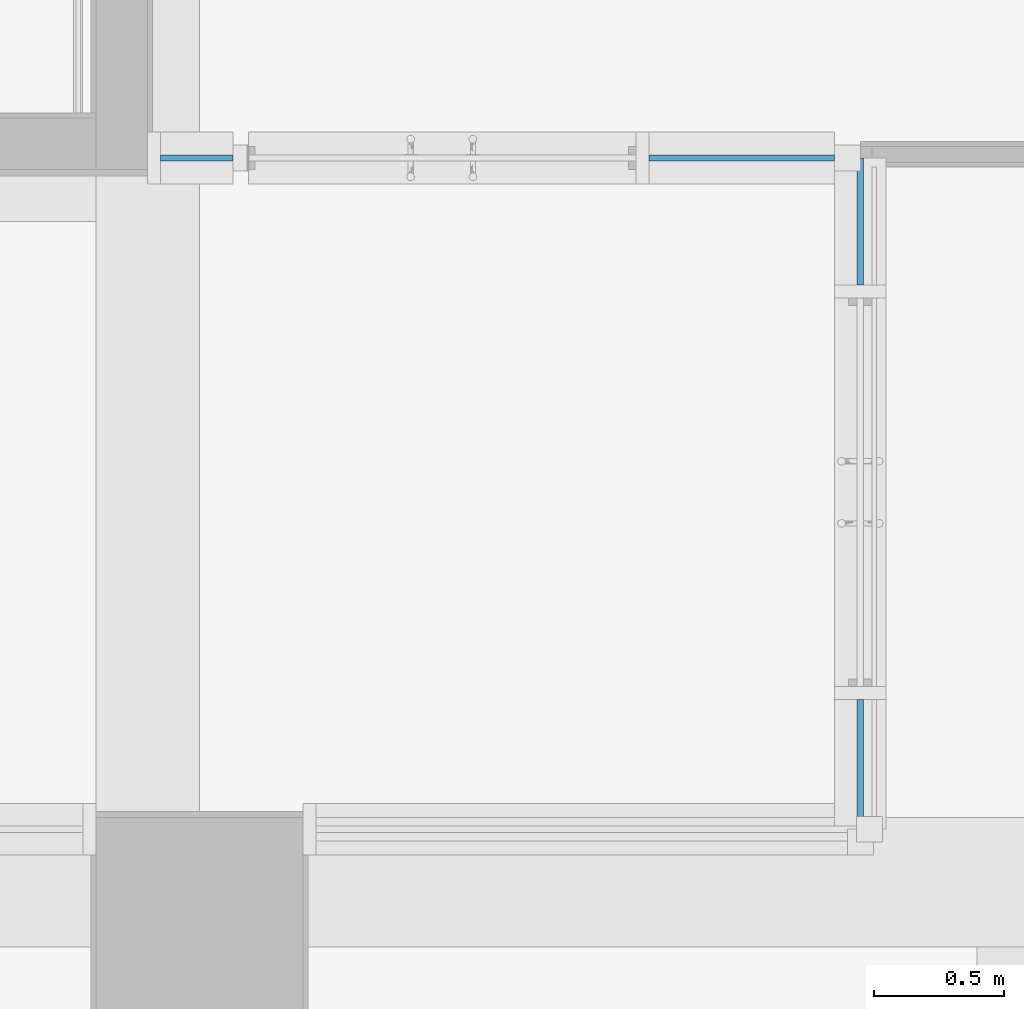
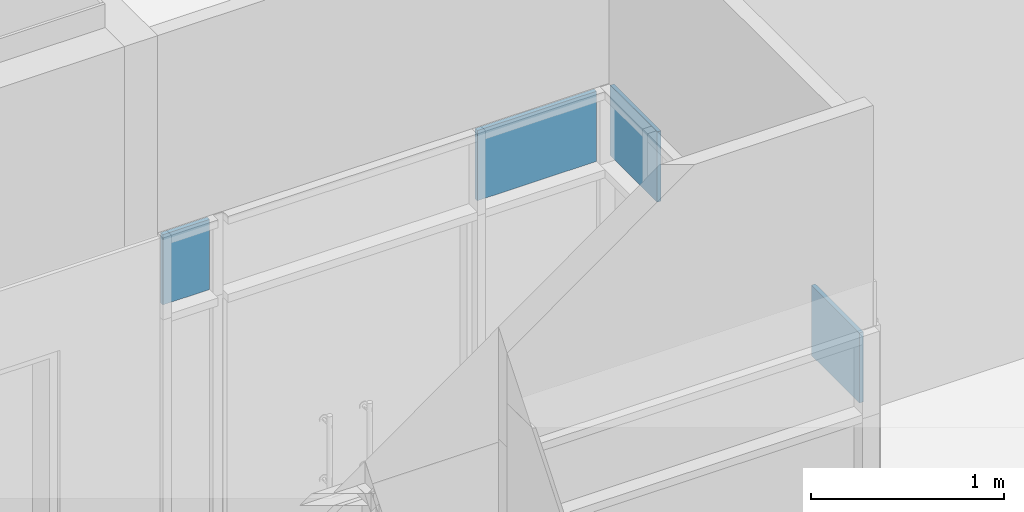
# One storey, part 36 of 81: 4 plates, 2 elements without a shape of their own.
"""IFC2X3 building model written with IfcOpenShell, lengths in millimetres."""

from ifc_helpers import new_model, entity, si_unit, converted_unit, derived_unit, direction, frame, origin, origin_2d_with_axis, place, context, subcontext, project, spatial, rectangle, extrude, source, transform, mapped, material, type_object, type_shapes, element, aggregate, save


model = new_model("IFC2X3")

# Units and contexts
model_context = context("Model", 3, precision=0.01, world=origin(), true_north=direction((6.123031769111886e-17, 1.0)))
body_context = subcontext(model_context, "Body", "Model", "MODEL_VIEW")
ifc_project = project(units=[si_unit("LENGTHUNIT", "METRE", prefix="MILLI"), si_unit("AREAUNIT", "SQUARE_METRE"), si_unit("VOLUMEUNIT", "CUBIC_METRE"), converted_unit("PLANEANGLEUNIT", "DEGREE", entity("IfcRatioMeasure", 0.017453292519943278), si_unit("PLANEANGLEUNIT", "RADIAN"), dimensions=[0, 0, 0, 0, 0, 0, 0]), si_unit("MASSUNIT", "GRAM", prefix="KILO"), derived_unit("MASSDENSITYUNIT", [(si_unit("MASSUNIT", "GRAM", prefix="KILO"), 1), (si_unit("LENGTHUNIT", "METRE"), -3)]), derived_unit("MOMENTOFINERTIAUNIT", [(si_unit("LENGTHUNIT", "METRE"), 4)]), si_unit("TIMEUNIT", "SECOND"), si_unit("FREQUENCYUNIT", "HERTZ"), si_unit("THERMODYNAMICTEMPERATUREUNIT", "DEGREE_CELSIUS"), derived_unit("THERMALTRANSMITTANCEUNIT", [(si_unit("MASSUNIT", "GRAM", prefix="KILO"), 1), (si_unit("THERMODYNAMICTEMPERATUREUNIT", "KELVIN"), -1), (si_unit("TIMEUNIT", "SECOND"), -3)]), derived_unit("VOLUMETRICFLOWRATEUNIT", [(si_unit("LENGTHUNIT", "METRE"), 3), (si_unit("TIMEUNIT", "SECOND"), -1)]), derived_unit("MASSFLOWRATEUNIT", [(si_unit("MASSUNIT", "GRAM", prefix="KILO"), 1), (si_unit("TIMEUNIT", "SECOND"), -1)]), derived_unit("ROTATIONALFREQUENCYUNIT", [(si_unit("TIMEUNIT", "SECOND"), -1)]), si_unit("ELECTRICCURRENTUNIT", "AMPERE"), si_unit("ELECTRICVOLTAGEUNIT", "VOLT"), si_unit("POWERUNIT", "WATT"), si_unit("FORCEUNIT", "NEWTON", prefix="KILO"), si_unit("ILLUMINANCEUNIT", "LUX"), si_unit("LUMINOUSFLUXUNIT", "LUMEN"), si_unit("LUMINOUSINTENSITYUNIT", "CANDELA"), derived_unit("USERDEFINED", [(si_unit("MASSUNIT", "GRAM", prefix="KILO"), -1), (si_unit("LENGTHUNIT", "METRE"), -2), (si_unit("TIMEUNIT", "SECOND"), 3), (si_unit("LUMINOUSFLUXUNIT", "LUMEN"), 1)]), derived_unit("SOUNDPOWERUNIT", [(si_unit("MASSUNIT", "GRAM", prefix="KILO"), 1), (si_unit("LENGTHUNIT", "METRE"), 2), (si_unit("TIMEUNIT", "SECOND"), -3)]), derived_unit("SOUNDPRESSUREUNIT", [(si_unit("MASSUNIT", "GRAM", prefix="KILO"), 1), (si_unit("LENGTHUNIT", "METRE"), -1), (si_unit("TIMEUNIT", "SECOND"), -2)]), derived_unit("LINEARVELOCITYUNIT", [(si_unit("LENGTHUNIT", "METRE"), 1), (si_unit("TIMEUNIT", "SECOND"), -1)]), si_unit("PRESSUREUNIT", "PASCAL"), derived_unit("USERDEFINED", [(si_unit("LENGTHUNIT", "METRE"), -2), (si_unit("MASSUNIT", "GRAM", prefix="KILO"), 1), (si_unit("TIMEUNIT", "SECOND"), -2)]), derived_unit("LINEARFORCEUNIT", [(si_unit("MASSUNIT", "GRAM", prefix="KILO"), 1), (si_unit("LENGTHUNIT", "METRE"), 1), (si_unit("TIMEUNIT", "SECOND"), -2), (si_unit("LENGTHUNIT", "METRE"), -1)]), derived_unit("PLANARFORCEUNIT", [(si_unit("MASSUNIT", "GRAM", prefix="KILO"), 1), (si_unit("LENGTHUNIT", "METRE"), 1), (si_unit("TIMEUNIT", "SECOND"), -2), (si_unit("LENGTHUNIT", "METRE"), -2)])], contexts=[model_context])

# Site, building, storey
site_placement = place(None, frame((-14167.972527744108, -657.2125860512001, 0.0)))
site = spatial("IfcSite", under=ifc_project, at=site_placement, Name="Default", CompositionType="ELEMENT")
building_placement = place(site_placement, origin())
building = spatial("IfcBuilding", under=site, at=building_placement, Name="Sample Building", CompositionType="ELEMENT")
storey_placement = place(building_placement, frame((0.0, 0.0, 13400.0)))
storey = spatial("IfcBuildingStorey", under=building, at=storey_placement, Name="지상 4층", CompositionType="ELEMENT", Elevation=13400.00000000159)

# Curtain wall, plates
curtain_wall_type = type_object("IfcCurtainWallType", Name="커튼월:CW112-스테인리스 스틸 커튼월", PredefinedType="NOTDEFINED")
curtain_wall_1_placement = place(storey_placement, frame((0.0, 0.0, -13400.0)))
curtain_wall_1 = element("IfcCurtainWall", 1, at=curtain_wall_1_placement, inside=storey, type_object=curtain_wall_type, Name="커튼월:CW112-스테인리스 스틸 커튼월", ObjectType="커튼월:CW112-스테인리스 스틸 커튼월")
ifc_material = material(Name="KBIMS-로이유리(코팅)")
plate_type_1 = type_object("IfcPlateType", Name="CW300-THK24.Low-e coating glass:CW300-THK24.Low-e coating glass", PredefinedType="CURTAIN_PANEL", material=ifc_material)
shared_shape_1 = source(origin(), body_context, "Body", "SweptSolid", [
    extrude(rectangle(XDim=499.999999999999, YDim=24.000000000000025, at=origin_2d_with_axis()), frame((0.0, 0.0, 0.0), z_axis=(0.0, 0.0, 1.0), x_axis=(-1.0, 0.0, 0.0)), (0.0, 0.0, 1.0), 444.9999999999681),
])
type_shapes(plate_type_1, [shared_shape_1])
plate_1_placement = place(curtain_wall_1_placement, frame((43717.972491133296, 13262.177678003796, 15605.0), z_axis=(0.0, 0.0, 1.0), x_axis=(0.0, 1.0, 0.0)))
plate_1 = element("IfcPlate", 2, at=plate_1_placement, type_object=plate_type_1, material=ifc_material, Name="CW300-THK24.Low-e coating glass:CW300-THK24.Low-e coating glass", ObjectType="CW300-THK24.Low-e coating glass:CW300-THK24.Low-e coating glass", context=body_context, shape_type="MappedRepresentation", body=[
    mapped(shared_shape_1, transform((0.0, 0.0, 0.0), scale=1.0)),
])
plate_type_2 = type_object("IfcPlateType", Name="CW300-THK24.Low-e coating glass:CW300-THK24.Low-e coating glass", PredefinedType="CURTAIN_PANEL", material=ifc_material)
shared_shape_2 = source(origin(), body_context, "Body", "SweptSolid", [
    extrude(rectangle(XDim=490.03490804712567, YDim=24.000000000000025, at=origin_2d_with_axis()), frame((0.0, 0.0, 0.0), z_axis=(0.0, 0.0, 1.0), x_axis=(-1.0, 0.0, 0.0)), (0.0, 0.0, 1.0), 444.9999999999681),
])
type_shapes(plate_type_2, [shared_shape_2])
plate_2_placement = place(curtain_wall_1_placement, frame((43717.972491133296, 15357.19513202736, 15605.0), z_axis=(0.0, 0.0, 1.0), x_axis=(0.0, 1.0, 0.0)))
plate_2 = element("IfcPlate", 3, at=plate_2_placement, type_object=plate_type_2, material=ifc_material, Name="CW300-THK24.Low-e coating glass:CW300-THK24.Low-e coating glass", ObjectType="CW300-THK24.Low-e coating glass:CW300-THK24.Low-e coating glass", context=body_context, shape_type="MappedRepresentation", body=[
    mapped(shared_shape_2, transform((0.0, 0.0, 0.0), scale=1.0)),
])
aggregate(curtain_wall_1, [plate_1, plate_2])

curtain_wall_2_placement = place(storey_placement, frame((0.0, 0.0, -13400.0)))
curtain_wall_2 = element("IfcCurtainWall", 4, at=curtain_wall_2_placement, inside=storey, type_object=curtain_wall_type, Name="커튼월:CW112-스테인리스 스틸 커튼월", ObjectType="커튼월:CW112-스테인리스 스틸 커튼월")
plate_type_3 = type_object("IfcPlateType", Name="CW300-THK24.Low-e coating glass:CW300-THK24.Low-e coating glass", PredefinedType="CURTAIN_PANEL", material=ifc_material)
shared_shape_3 = source(origin(), body_context, "Body", "SweptSolid", [
    extrude(rectangle(XDim=714.9999999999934, YDim=24.000000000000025, at=origin_2d_with_axis()), frame((0.0, 0.0, 0.0), z_axis=(0.0, 0.0, 1.0), x_axis=(-1.0, 0.0, 0.0)), (0.0, 0.0, 1.0), 444.9999999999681),
])
type_shapes(plate_type_3, [shared_shape_3])
plate_3_placement = place(curtain_wall_2_placement, frame((43260.472491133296, 15602.212586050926, 15605.0), z_axis=(0.0, 0.0, 1.0), x_axis=(-1.0, 0.0, 0.0)))
plate_3 = element("IfcPlate", 5, at=plate_3_placement, type_object=plate_type_3, material=ifc_material, Name="CW300-THK24.Low-e coating glass:CW300-THK24.Low-e coating glass", ObjectType="CW300-THK24.Low-e coating glass:CW300-THK24.Low-e coating glass", context=body_context, shape_type="MappedRepresentation", body=[
    mapped(shared_shape_3, transform((0.0, 0.0, 0.0), scale=1.0)),
])
plate_type_4 = type_object("IfcPlateType", Name="CW300-THK24.Low-e coating glass:CW300-THK24.Low-e coating glass", PredefinedType="CURTAIN_PANEL", material=ifc_material)
shared_shape_4 = source(origin(), body_context, "Body", "SweptSolid", [
    extrude(rectangle(XDim=280.0086929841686, YDim=24.000000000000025, at=origin_2d_with_axis()), frame((0.0, 0.0, 0.0), z_axis=(0.0, 0.0, 1.0), x_axis=(-1.0, 0.0, 0.0)), (0.0, 0.0, 1.0), 444.9999999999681),
])
type_shapes(plate_type_4, [shared_shape_4])
plate_4_placement = place(curtain_wall_2_placement, frame((41157.968144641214, 15602.212586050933, 15605.0), z_axis=(0.0, 0.0, 1.0), x_axis=(-1.0, 0.0, 0.0)))
plate_4 = element("IfcPlate", 6, at=plate_4_placement, type_object=plate_type_4, material=ifc_material, Name="CW300-THK24.Low-e coating glass:CW300-THK24.Low-e coating glass", ObjectType="CW300-THK24.Low-e coating glass:CW300-THK24.Low-e coating glass", context=body_context, shape_type="MappedRepresentation", body=[
    mapped(shared_shape_4, transform((0.0, 0.0, 0.0), scale=1.0)),
])
aggregate(curtain_wall_2, [plate_3, plate_4])

save(model, "model.ifc")
